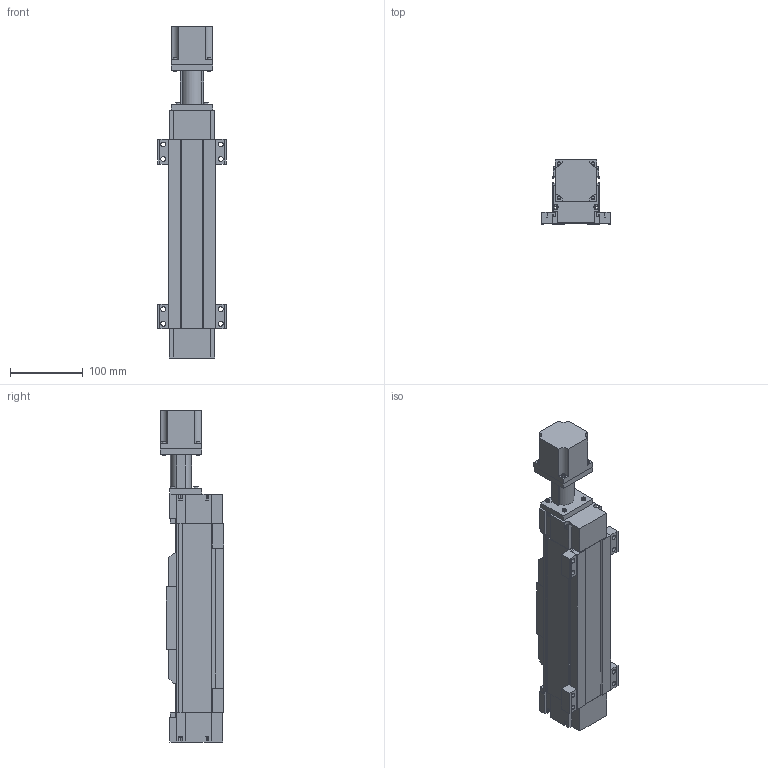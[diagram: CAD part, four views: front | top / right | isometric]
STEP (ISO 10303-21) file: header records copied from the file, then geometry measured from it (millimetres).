
FILE_DESCRIPTION (( 'STEP AP203' ), '1' );
FILE_NAME ('MSX65B-设计样例.STEP', '2013-11-02T03:03:15', ( '微软用户' ), ( '微软中国' ), 'SwSTEP 2.0', 'SolidWorks 2010', '' );
FILE_SCHEMA (( 'CONFIG_CONTROL_DESIGN' ));
Length unit declared in the file: millimetre
Products named in the file (1): MSX65B-扢數欴瞰
Bounding box: 94 x 87.45 x 455.5 mm (x, y, z)
Volume: 1697432.2 mm3; surface area: 237931.7 mm2
Topology: 4 solids, 5 shells, 624 faces, 1575 edges, 998 vertices
Faces by surface type: plane 475, cylinder 133, cone 16
Entity records: 18586 total; most frequent: DIRECTION 3195, CARTESIAN_POINT 3190, ORIENTED_EDGE 3134, EDGE_CURVE 1567, VECTOR 1189, LINE 1189, AXIS2_PLACEMENT_3D 1003, VERTEX_POINT 998
